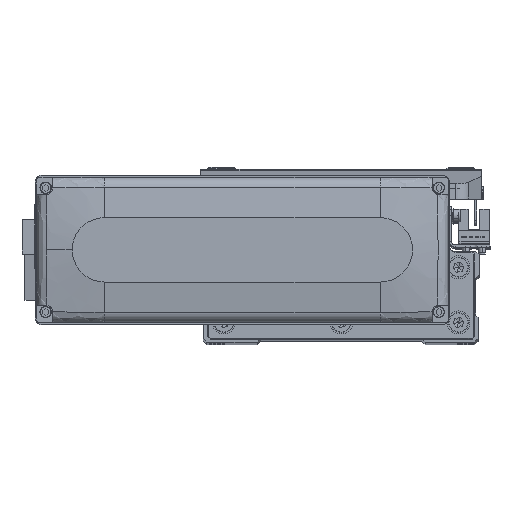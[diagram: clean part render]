
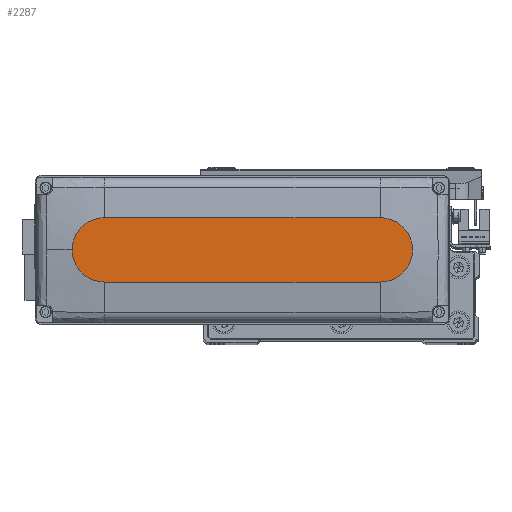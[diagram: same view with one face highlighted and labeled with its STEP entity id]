
A CAD part, top view. The second image highlights one B-rep face of the part: STEP entity #2287.
In plain terms, the highlighted planar face has unit normal (0, 0, 1).
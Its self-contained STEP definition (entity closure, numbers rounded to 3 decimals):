
#1834 = DIRECTION ( 'NONE',  ( 1., 0., 0. ) ) ;
#2287 = ADVANCED_FACE ( 'NONE', ( #25434 ), #39184, .T. ) ;
#2312 = CARTESIAN_POINT ( 'NONE',  ( 60., 14., 28.5 ) ) ;
#3980 = EDGE_CURVE ( 'NONE', #35439, #14427, #9794, .T. ) ;
#4196 = DIRECTION ( 'NONE',  ( -1., 0., 0. ) ) ;
#4336 = CARTESIAN_POINT ( 'NONE',  ( 74., 0., 28.5 ) ) ;
#5255 = CARTESIAN_POINT ( 'NONE',  ( -60., -14., 28.5 ) ) ;
#6218 = DIRECTION ( 'NONE',  ( 0., 0., 1. ) ) ;
#8373 = CARTESIAN_POINT ( 'NONE',  ( 0., 0., 28.5 ) ) ;
#9794 = CIRCLE ( 'NONE', #40680, 14. ) ;
#10183 = DIRECTION ( 'NONE',  ( 1., 0., 0. ) ) ;
#10497 = ORIENTED_EDGE ( 'NONE', *, *, #17285, .T. ) ;
#11075 = DIRECTION ( 'NONE',  ( 0., 0., 1. ) ) ;
#11821 = CIRCLE ( 'NONE', #36954, 14. ) ;
#11947 = VECTOR ( 'NONE', #4196, 1000. ) ;
#14427 = VERTEX_POINT ( 'NONE', #5255 ) ;
#15371 = EDGE_CURVE ( 'NONE', #32045, #31821, #11821, .T. ) ;
#17285 = EDGE_CURVE ( 'NONE', #14427, #32045, #18891, .T. ) ;
#17373 = ORIENTED_EDGE ( 'NONE', *, *, #3980, .T. ) ;
#18891 = LINE ( 'NONE', #32617, #42134 ) ;
#19525 = ORIENTED_EDGE ( 'NONE', *, *, #34561, .T. ) ;
#19921 = DIRECTION ( 'NONE',  ( 1., 0., 0. ) ) ;
#19982 = AXIS2_PLACEMENT_3D ( 'NONE', #41877, #11075, #24786 ) ;
#20916 = EDGE_LOOP ( 'NONE', ( #29830, #17373, #10497, #32905, #19525 ) ) ;
#21284 = LINE ( 'NONE', #35013, #11947 ) ;
#22063 = DIRECTION ( 'NONE',  ( 0., 0., 1. ) ) ;
#22947 = EDGE_CURVE ( 'NONE', #32980, #35439, #21284, .T. ) ;
#24237 = CARTESIAN_POINT ( 'NONE',  ( -60., 14., 28.5 ) ) ;
#24786 = DIRECTION ( 'NONE',  ( 1., 0., 0. ) ) ;
#25424 = AXIS2_PLACEMENT_3D ( 'NONE', #8373, #22063, #35799 ) ;
#25434 = FACE_OUTER_BOUND ( 'NONE', #20916, .T. ) ;
#27258 = CARTESIAN_POINT ( 'NONE',  ( -60., 0., 28.5 ) ) ;
#29727 = CARTESIAN_POINT ( 'NONE',  ( 60., -14., 28.5 ) ) ;
#29830 = ORIENTED_EDGE ( 'NONE', *, *, #22947, .T. ) ;
#31821 = VERTEX_POINT ( 'NONE', #4336 ) ;
#32045 = VERTEX_POINT ( 'NONE', #29727 ) ;
#32617 = CARTESIAN_POINT ( 'NONE',  ( -60., -14., 28.5 ) ) ;
#32905 = ORIENTED_EDGE ( 'NONE', *, *, #15371, .T. ) ;
#32980 = VERTEX_POINT ( 'NONE', #2312 ) ;
#34561 = EDGE_CURVE ( 'NONE', #31821, #32980, #39370, .T. ) ;
#35013 = CARTESIAN_POINT ( 'NONE',  ( -60., 14., 28.5 ) ) ;
#35439 = VERTEX_POINT ( 'NONE', #24237 ) ;
#35799 = DIRECTION ( 'NONE',  ( 1., 0., 0. ) ) ;
#36954 = AXIS2_PLACEMENT_3D ( 'NONE', #37034, #6218, #19921 ) ;
#37034 = CARTESIAN_POINT ( 'NONE',  ( 60., 0., 28.5 ) ) ;
#39184 = PLANE ( 'NONE',  #25424 ) ;
#39370 = CIRCLE ( 'NONE', #19982, 14. ) ;
#40680 = AXIS2_PLACEMENT_3D ( 'NONE', #27258, #40989, #10183 ) ;
#40989 = DIRECTION ( 'NONE',  ( 0., 0., 1. ) ) ;
#41877 = CARTESIAN_POINT ( 'NONE',  ( 60., 0., 28.5 ) ) ;
#42134 = VECTOR ( 'NONE', #1834, 1000. ) ;
